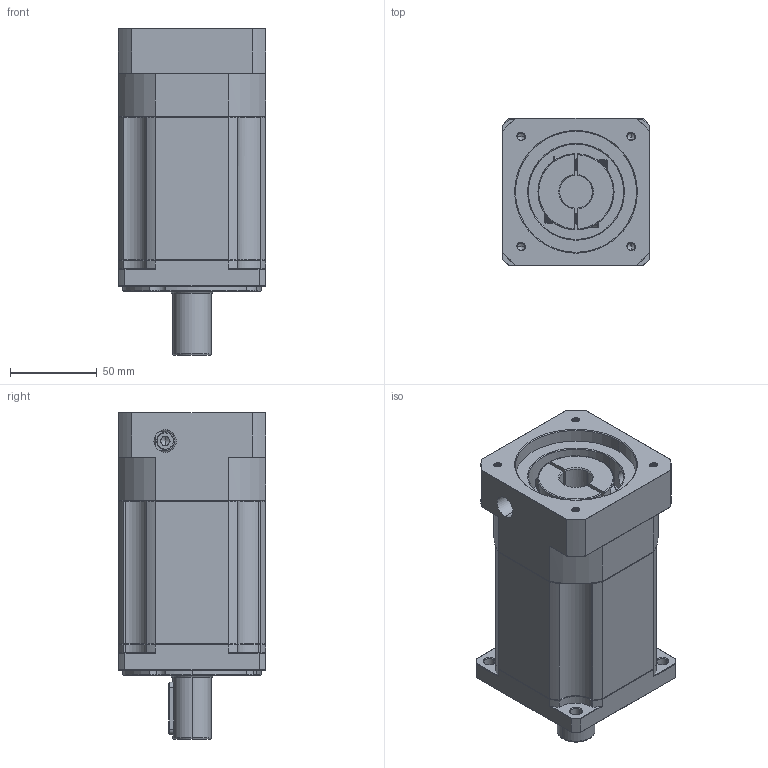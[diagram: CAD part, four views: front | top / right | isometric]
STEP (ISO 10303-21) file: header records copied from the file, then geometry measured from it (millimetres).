
FILE_DESCRIPTION (( 'STEP AP214' ), '1' );
FILE_NAME ('ZB090-D22-L3-P2-19-70-90-M5.step', '2023-08-18T12:15:34', ( '' ), ( '' ), 'SwSTEP 2.0', 'SolidWorks 2016', '' );
FILE_SCHEMA (( 'AUTOMOTIVE_DESIGN' ));
Length unit declared in the file: millimetre
Products named in the file (1): ZB090-D22-L3-P2-19-70-90-M5
Bounding box: 85 x 85 x 189 mm (x, y, z)
Volume: 915720.6 mm3; surface area: 99429 mm2
Topology: 4 solids, 4 shells, 2189 faces, 5845 edges, 3738 vertices
Faces by surface type: plane 1056, bspline 412, cylinder 390, cone 319, torus 12
Entity records: 119898 total; most frequent: CARTESIAN_POINT 44733, ORIENTED_EDGE 11646, DIRECTION 9008, EDGE_CURVE 5823, VERTEX_POINT 3738, VECTOR 3706, LINE 3706, AXIS2_PLACEMENT_3D 2651
